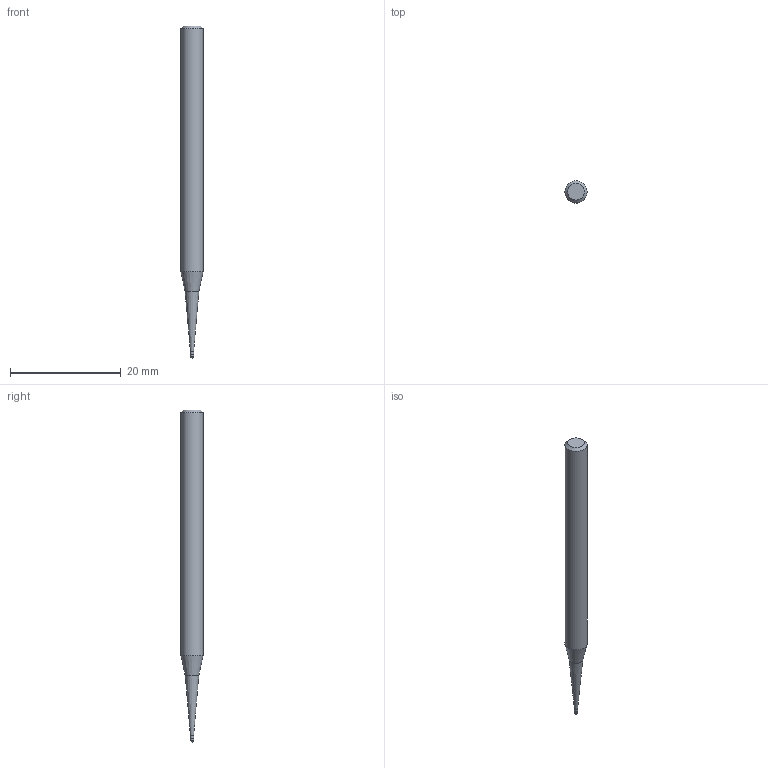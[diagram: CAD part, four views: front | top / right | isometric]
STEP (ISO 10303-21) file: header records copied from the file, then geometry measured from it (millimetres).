
FILE_DESCRIPTION((''),'2;1');
FILE_NAME('C:\Users\nsx150\AppData\Local\Temp\Mastercam 2021\SNAKH10GOD\TEMP.step','2021-10-21T13:31:47',(''),(''),'STEP Write','Mastercam 2021 ... CNC Software, Inc.','');
FILE_SCHEMA(('AUTOMOTIVE_DESIGN'));
Length unit declared in the file: millimetre
Products named in the file (1): None
Bounding box: 4 x 4 x 60 mm (x, y, z)
Volume: 609.9 mm3; surface area: 659.3 mm2
Topology: 2 solids, 2 shells, 10 faces, 16 edges, 9 vertices
Faces by surface type: plane 3, cylinder 3, cone 3, sphere 1
Full cylindrical faces by diameter (mm): 0.585 x1, 0.6 x1, 4 x1
Entity records: 232 total; most frequent: DIRECTION 40, CARTESIAN_POINT 28, AXIS2_PLACEMENT_3D 20, ORIENTED_EDGE 16, EDGE_LOOP 16, STYLED_ITEM 13, ADVANCED_FACE 10, FACE_BOUND 9
